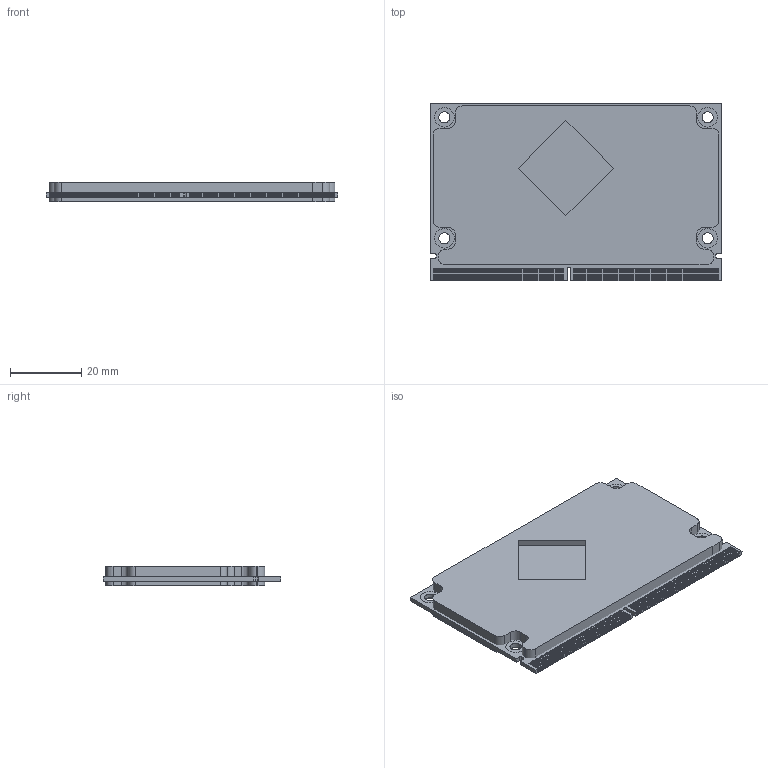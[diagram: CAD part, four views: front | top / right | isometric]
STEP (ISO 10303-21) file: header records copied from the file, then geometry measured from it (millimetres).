
FILE_DESCRIPTION(('CATIA V5 STEP'),'2;1');
FILE_NAME('\\NUFOTEC-SERVER\Projekt-Kunder\Embedded-Artists\Projekt-Cadfiler-Com+Carrier-Board\Cad-Data\Catia-V5-R19\iMX7 COM Board\IMX7-COM-BOARD-REV-P-A4PCB-ASSY-NUFOTEC-2016-08-17.stp','2016-08-19T08:28:03+00:00',('none'),('none'),'CATIA Version 5 Release 19 GA (IN-10)','CATIA V5 STEP AP214','none');
FILE_SCHEMA(('AUTOMOTIVE_DESIGN { 1 0 10303 214 1 1 1 1 }'));
Products named in the file (1): IMX7DCOMBOARDREVPA4PCB20160706_ASM_AllCATPart
Bounding box: 82 x 50 x 5.51 mm (x, y, z)
Surface area: 24303.6 mm2
Topology: 717 solids, 717 shells, 4452 faces, 9213 edges, 6196 vertices
Faces by surface type: plane 4175, cylinder 277
Entity records: 116350 total; most frequent: CARTESIAN_POINT 19461, ORIENTED_EDGE 18426, DIRECTION 16987, EDGE_CURVE 9213, VECTOR 8497, LINE 8497, VERTEX_POINT 6196, AXIS2_PLACEMENT_3D 4600
